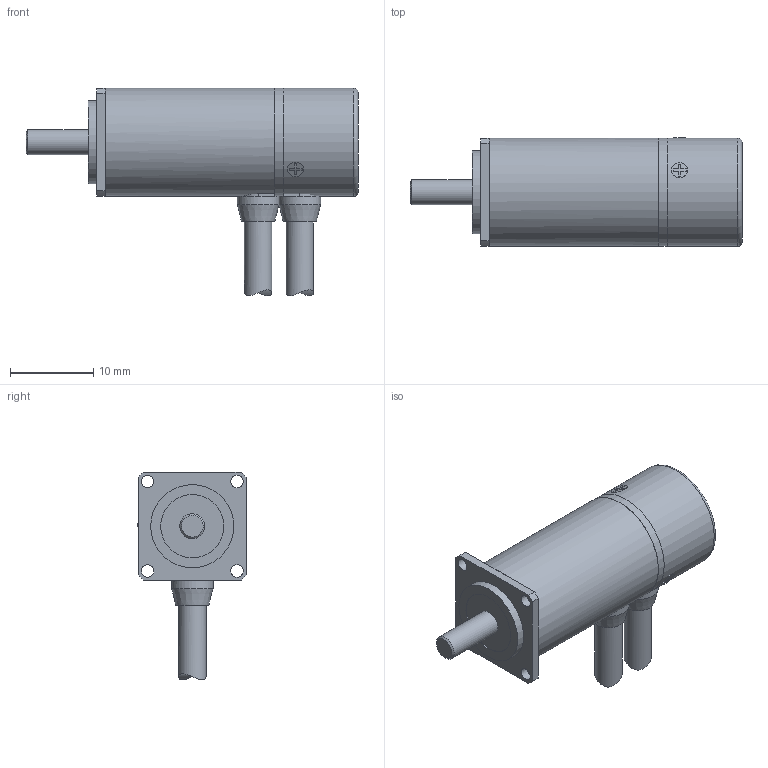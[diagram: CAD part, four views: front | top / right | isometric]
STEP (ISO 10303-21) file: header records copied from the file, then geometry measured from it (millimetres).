
FILE_DESCRIPTION(('STEP AP214'),'1');
FILE_NAME('LC18H02B MDS-1312-11B.stp','2022-04-13T06:38:42',(' '),(' '),'Spatial InterOp 3D',' ',' ');
FILE_SCHEMA(('AUTOMOTIVE_DESIGN { 1 0 10303 214 1 1 1 1 }'));
Length unit declared in the file: millimetre
Products named in the file (11): LC18H02B MDS-1312-11B; 018211 サラコネジ M1.4X2.5; 041980 3芯屈曲ケーブル(3.3)0.3M-TE; - ケーブルモータAssy図面用; 4.2ゴムブッシュ - コピー; 041981 14芯屈曲ケーブル(3.3)0.3M-HRS; - ケーブルモータAssy用モデル; ケーブルプッシュφ4.2 - コピー
Assembly tree (12 placements, depth 3):
  LC18H02B MDS-1312-11B
    LC18H02B MDS-1312-11B
    LC18H02B MDS-1312-11B
    LC18H02B MDS-1312-11B
    018211 サラコネジ M1.4X2.5  x3
    041980 3芯屈曲ケーブル(3.3)0.3M-TE
      - ケーブルモータAssy図面用
      4.2ゴムブッシュ - コピー
    041981 14芯屈曲ケーブル(3.3)0.3M-HRS
      - ケーブルモータAssy用モデル
      ケーブルプッシュφ4.2 - コピー
Bounding box: 39.9 x 13.07 x 24.97 mm (x, y, z)
Volume: 4662.7 mm3; surface area: 2995.9 mm2
Topology: 10 solids, 10 shells, 133 faces, 305 edges, 198 vertices
Faces by surface type: plane 92, cylinder 34, cone 6, torus 1
Full cylindrical faces by diameter (mm): 1.4 x3, 1.5 x4, 2 x3, 3 x1, 3.2 x1, 3.3 x3, 5 x2, 7.6 x1, 10 x1, 13 x3
Entity records: 4122 total; most frequent: CARTESIAN_POINT 588, DIRECTION 470, ORIENTED_EDGE 372, EDGE_CURVE 186, AXIS2_PLACEMENT_3D 176, EDGE_LOOP 136, VERTEX_POINT 132, LINE 118
